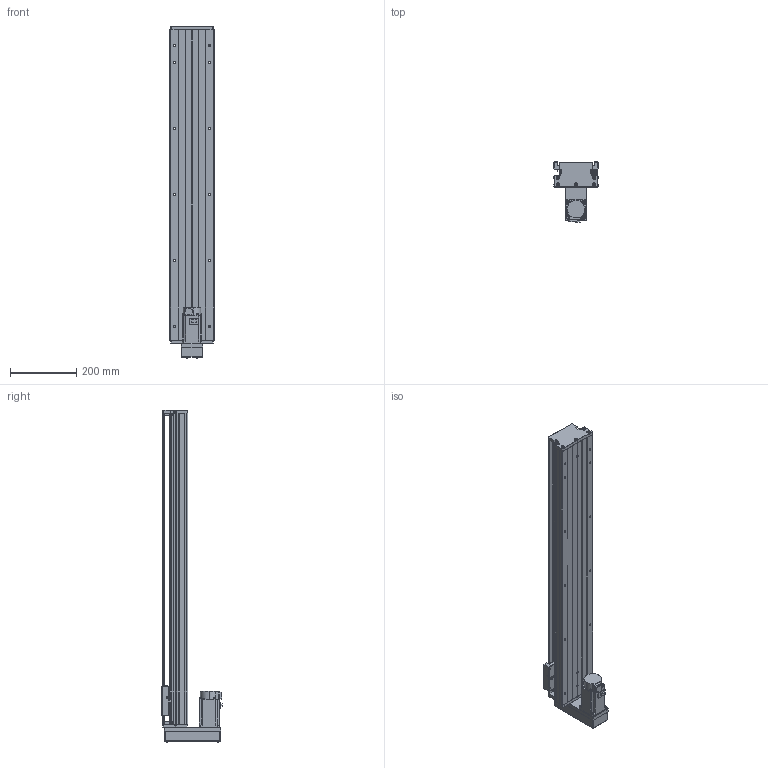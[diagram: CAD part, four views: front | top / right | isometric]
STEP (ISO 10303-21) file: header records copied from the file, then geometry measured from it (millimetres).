
FILE_DESCRIPTION (( 'STEP AP203' ), '1' );
FILE_NAME ('KTH130-800-BM-M40-C4.step', '2023-06-30T04:05:55', ( '微软用户' ), ( '微软中国' ), 'SwSTEP 2.0', 'SolidWorks 2020', '' );
FILE_SCHEMA (( 'CONFIG_CONTROL_DESIGN' ));
Length unit declared in the file: millimetre
Products named in the file (19): KTH130-002_KTH130-002; EE_SX911P_R; GBT 70.2-M4¡Á35_M4¡Á35; KTH130-004; CTHA60-016; GTH14-015-2_CTHA86-015-2; KTH130-005; GBT 70.1-M3℅5; GTH14-033; GB1155-6X6; GBT77-2000 M3×3; KTH130-800-BM-M40-C4; GBT70.1 M5℅16; す晦芛蹟隊 M3℅5; GBT 70.2-M3¡Á5_M3¡Á6; GBT 70.3-M3℅8; GTH14-001_800; CTHA60-017; HG-KN43J-S100
Assembly tree (53 placements, depth 2):
  KTH130-800-BM-M40-C4
    GTH14-001_800
    KTH130-002_KTH130-002
    KTH130-004
    KTH130-005
    GB1155-6X6  x2
    GBT70.1 M5℅16  x10
    GBT 70.2-M3¡Á5_M3¡Á6  x4
    CTHA60-017  x3
    EE_SX911P_R  x3
    CTHA60-016  x2
    GBT 70.1-M3℅5  x6
    GBT77-2000 M3×3  x6
    す晦芛蹟隊 M3℅5  x2
    GBT 70.3-M3℅8  x4
    HG-KN43J-S100
    GBT 70.2-M4¡Á35_M4¡Á35  x4
    GTH14-015-2_CTHA86-015-2
    GTH14-033
Bounding box: 135 x 181.8 x 1004.2 mm (x, y, z)
Volume: 5664073 mm3; surface area: 911810.6 mm2
Topology: 56 solids, 56 shells, 2233 faces, 5390 edges, 3358 vertices
Faces by surface type: plane 1199, cylinder 620, cone 290, torus 100, sphere 24
Entity records: 40866 total; most frequent: CARTESIAN_POINT 8684, DIRECTION 6099, ORIENTED_EDGE 5980, EDGE_CURVE 2990, AXIS2_PLACEMENT_3D 2104, VERTEX_POINT 1911, VECTOR 1891, LINE 1891
